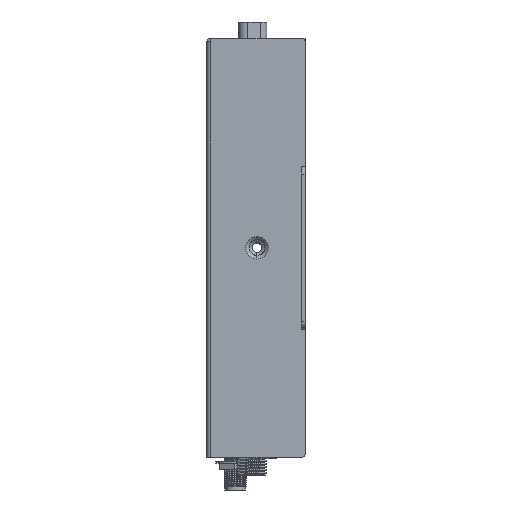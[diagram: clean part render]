
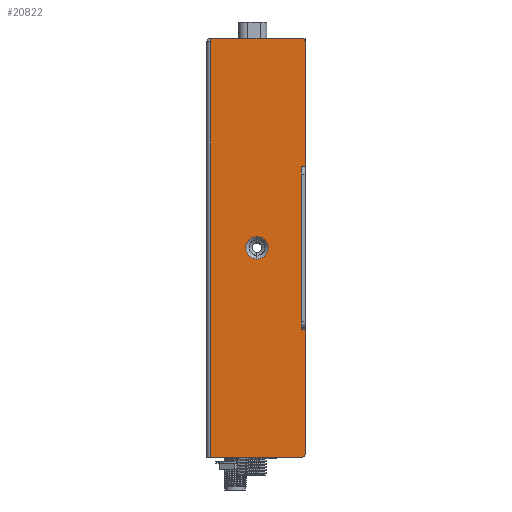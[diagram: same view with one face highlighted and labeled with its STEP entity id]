
A CAD part, left-side view. The second image highlights one B-rep face of the part: STEP entity #20822.
In plain terms, the highlighted planar face has unit normal (-1, 0, 0).
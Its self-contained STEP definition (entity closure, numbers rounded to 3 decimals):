
#8891=DIRECTION('',(0.,1.,0.));
#8892=VECTOR('',#8891,24.);
#8893=CARTESIAN_POINT('',(-38.5,1.,55.5));
#8894=LINE('',#8893,#8892);
#8895=CARTESIAN_POINT('',(-38.5,1.,54.5));
#8896=DIRECTION('',(-1.,0.,0.));
#8897=DIRECTION('',(0.,-1.,0.));
#8898=AXIS2_PLACEMENT_3D('',#8895,#8896,#8897);
#8900=DIRECTION('',(0.,0.,1.));
#8901=VECTOR('',#8900,33.);
#8902=CARTESIAN_POINT('',(-38.5,0.,21.5));
#8903=LINE('',#8902,#8901);
#8904=DIRECTION('',(0.,-1.,0.));
#8905=VECTOR('',#8904,1.);
#8906=CARTESIAN_POINT('',(-38.5,1.,21.5));
#8907=LINE('',#8906,#8905);
#8908=DIRECTION('',(0.,1.,0.));
#8909=VECTOR('',#8908,1.);
#8910=CARTESIAN_POINT('',(-38.5,0.,-21.5));
#8911=LINE('',#8910,#8909);
#8912=DIRECTION('',(0.,0.,1.));
#8913=VECTOR('',#8912,33.);
#8914=CARTESIAN_POINT('',(-38.5,0.,-54.5));
#8915=LINE('',#8914,#8913);
#8916=CARTESIAN_POINT('',(-38.5,1.,-54.5));
#8917=DIRECTION('',(-1.,0.,0.));
#8918=DIRECTION('',(0.,0.,-1.));
#8919=AXIS2_PLACEMENT_3D('',#8916,#8917,#8918);
#8921=DIRECTION('',(0.,-1.,0.));
#8922=VECTOR('',#8921,24.);
#8923=CARTESIAN_POINT('',(-38.5,25.,-55.5));
#8924=LINE('',#8923,#8922);
#8925=DIRECTION('',(0.,0.,-1.));
#8926=VECTOR('',#8925,1.);
#8927=CARTESIAN_POINT('',(-38.5,25.,55.5));
#8928=LINE('',#8927,#8926);
#8929=CARTESIAN_POINT('',(-38.5,12.75,0.));
#8930=DIRECTION('',(1.,0.,0.));
#8931=DIRECTION('',(0.,0.,1.));
#8932=AXIS2_PLACEMENT_3D('',#8929,#8930,#8931);
#8934=CARTESIAN_POINT('',(-38.5,12.75,0.));
#8935=DIRECTION('',(1.,0.,0.));
#8936=DIRECTION('',(0.,0.,-1.));
#8937=AXIS2_PLACEMENT_3D('',#8934,#8935,#8936);
#8952=DIRECTION('',(0.,0.,-1.));
#8953=VECTOR('',#8952,43.);
#8954=CARTESIAN_POINT('',(-38.5,1.,21.5));
#8955=LINE('',#8954,#8953);
#9201=DIRECTION('',(0.,0.,1.));
#9202=VECTOR('',#9201,110.);
#9203=CARTESIAN_POINT('',(-38.5,25.,-55.5));
#9204=LINE('',#9203,#9202);
#18750=CARTESIAN_POINT('',(-38.5,1.,-21.5));
#18752=VERTEX_POINT('',#18750);
#18754=CARTESIAN_POINT('',(-38.5,1.,55.5));
#18755=CARTESIAN_POINT('',(-38.5,25.,55.5));
#18756=VERTEX_POINT('',#18754);
#18757=VERTEX_POINT('',#18755);
#18764=CARTESIAN_POINT('',(-38.5,1.,21.5));
#18765=VERTEX_POINT('',#18764);
#18766=CARTESIAN_POINT('',(-38.5,12.75,-3.));
#18768=VERTEX_POINT('',#18766);
#18770=CARTESIAN_POINT('',(-38.5,12.75,3.));
#18771=VERTEX_POINT('',#18770);
#18772=CARTESIAN_POINT('',(-38.5,25.,54.5));
#18773=VERTEX_POINT('',#18772);
#18774=CARTESIAN_POINT('',(-38.5,0.,54.5));
#18775=VERTEX_POINT('',#18774);
#18786=CARTESIAN_POINT('',(-38.5,25.,-55.5));
#18787=VERTEX_POINT('',#18786);
#18788=CARTESIAN_POINT('',(-38.5,0.,21.5));
#18789=VERTEX_POINT('',#18788);
#18802=CARTESIAN_POINT('',(-38.5,0.,-21.5));
#18803=VERTEX_POINT('',#18802);
#18808=CARTESIAN_POINT('',(-38.5,1.,-55.5));
#18809=VERTEX_POINT('',#18808);
#18830=CARTESIAN_POINT('',(-38.5,0.,-54.5));
#18831=VERTEX_POINT('',#18830);
#20792=CARTESIAN_POINT('',(-38.5,25.,54.5));
#20793=DIRECTION('',(1.,0.,0.));
#20794=DIRECTION('',(0.,0.,1.));
#20795=AXIS2_PLACEMENT_3D('',#20792,#20793,#20794);
#20796=PLANE('',#20795);
#20797=ORIENTED_EDGE('',*,*,#20758,.F.);
#20798=ORIENTED_EDGE('',*,*,#20771,.F.);
#20799=ORIENTED_EDGE('',*,*,#20783,.F.);
#20801=ORIENTED_EDGE('',*,*,#20800,.F.);
#20803=ORIENTED_EDGE('',*,*,#20802,.T.);
#20805=ORIENTED_EDGE('',*,*,#20804,.F.);
#20807=ORIENTED_EDGE('',*,*,#20806,.F.);
#20809=ORIENTED_EDGE('',*,*,#20808,.F.);
#20810=ORIENTED_EDGE('',*,*,#20694,.F.);
#20812=ORIENTED_EDGE('',*,*,#20811,.T.);
#20813=ORIENTED_EDGE('',*,*,#20742,.F.);
#20814=EDGE_LOOP('',(#20797,#20798,#20799,#20801,#20803,#20805,#20807,#20809,
#20810,#20812,#20813));
#20815=FACE_OUTER_BOUND('',#20814,.F.);
#20817=ORIENTED_EDGE('',*,*,#20816,.F.);
#20819=ORIENTED_EDGE('',*,*,#20818,.F.);
#20820=EDGE_LOOP('',(#20817,#20819));
#20821=FACE_BOUND('',#20820,.F.);
#20822=ADVANCED_FACE('',(#20815,#20821),#20796,.F.);
#8899=CIRCLE('',#8898,1.);
#8920=CIRCLE('',#8919,1.);
#8933=CIRCLE('',#8932,3.);
#8938=CIRCLE('',#8937,3.);
#20694=EDGE_CURVE('',#18787,#18809,#8924,.T.);
#20742=EDGE_CURVE('',#18757,#18773,#8928,.T.);
#20758=EDGE_CURVE('',#18756,#18757,#8894,.T.);
#20771=EDGE_CURVE('',#18775,#18756,#8899,.T.);
#20783=EDGE_CURVE('',#18789,#18775,#8903,.T.);
#20800=EDGE_CURVE('',#18765,#18789,#8907,.T.);
#20802=EDGE_CURVE('',#18765,#18752,#8955,.T.);
#20804=EDGE_CURVE('',#18803,#18752,#8911,.T.);
#20806=EDGE_CURVE('',#18831,#18803,#8915,.T.);
#20808=EDGE_CURVE('',#18809,#18831,#8920,.T.);
#20811=EDGE_CURVE('',#18787,#18773,#9204,.T.);
#20816=EDGE_CURVE('',#18771,#18768,#8933,.T.);
#20818=EDGE_CURVE('',#18768,#18771,#8938,.T.);
